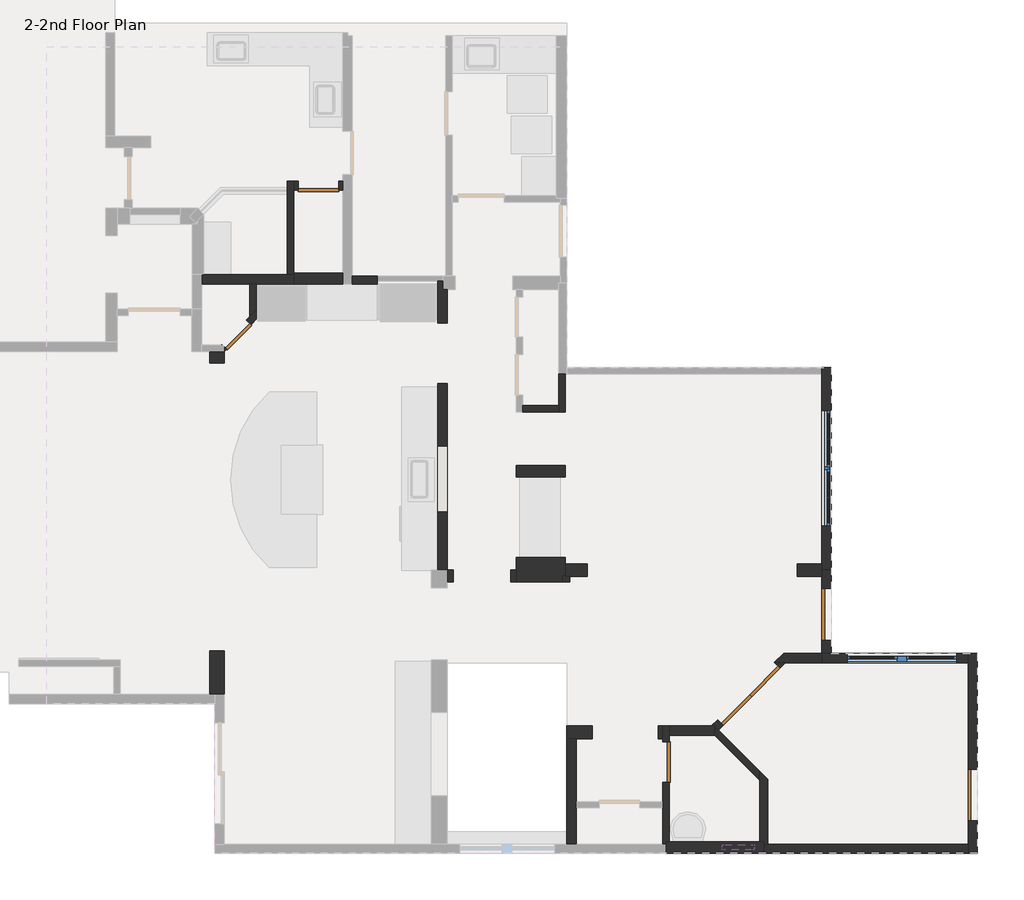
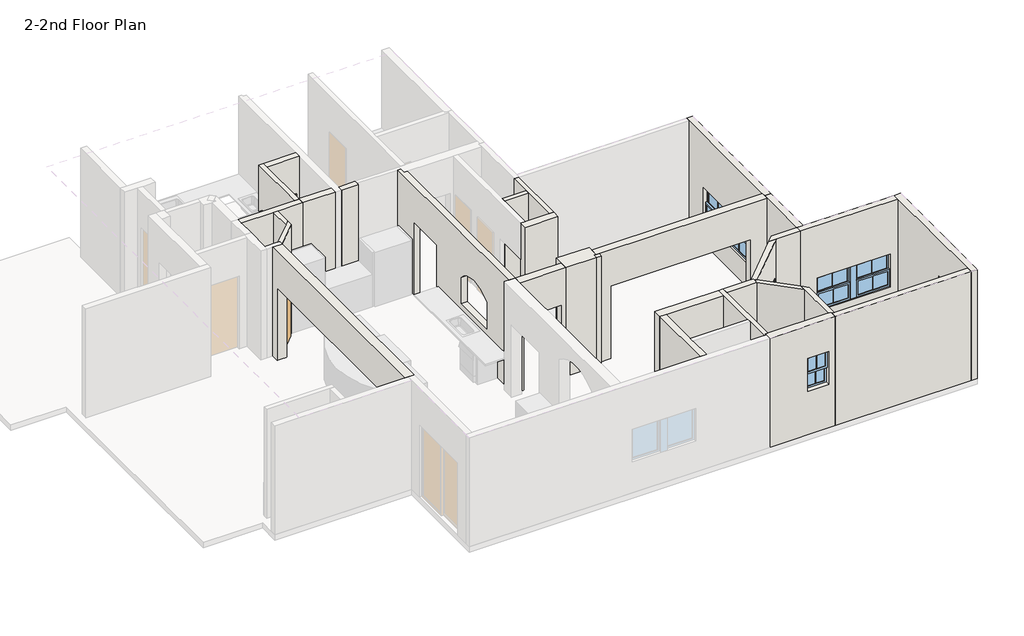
# One storey, part 2 of 3: 30 walls, 6 doors, 3 windows.
"""IFC4 building model written with IfcOpenShell, lengths in millimetres."""

from ifc_helpers import new_model, si_unit, frame, origin, place, context, project, spatial, polyline, circle_curve, outline, extrude, faceted_brep, transform, mapped, element, save
from ifc_brep_helpers import plane_surface, revolved_surface, advanced_brep
from components import door_af60eaab, door_64bc458f, door_f3367864, door_0635474c, door_757b25a2, window_edb563cb, window_b2b55fbc, window_ae0c0cb5

model = new_model("IFC4")

# Units and contexts
model_context = context("Model", 3, world=origin())
ifc_project = project(units=[si_unit("LENGTHUNIT", "METRE", prefix="MILLI")], contexts=[model_context])

# Site, building, storey
site = spatial("IfcSite", under=ifc_project)
building = spatial("IfcBuilding", under=site)
storey = spatial("IfcBuildingStorey", under=building, Name="2-2nd Floor Plan", Elevation=3348.0)

# Doors
placement = place(None, origin())
door_shape = door_af60eaab(model_context)
element("IfcDoor", 1, ObjectType="Door_1 : 2'-0\" X 6'-8\"", at=placement, inside=storey, context=model_context, shape_type="MappedRepresentation", body=[
    mapped(door_shape, transform((385.1436821, 9152.7659872, 3348.0), x_axis=(0.7071067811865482, 0.7071067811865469, 0.0), y_axis=(-0.7071067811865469, 0.7071067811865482, 0.0), z_axis=(0.0, 0.0, 1.0))),
])
door_2_shape = door_64bc458f(model_context)
element("IfcDoor", 2, ObjectType="Door_1 : 2'-4\" X 6'-8\"", at=placement, inside=storey, context=model_context, shape_type="MappedRepresentation", body=[
    mapped(door_2_shape, transform((7956.55, 1612.9, 3348.0), x_axis=(0.0, 1.0, 0.0), y_axis=(-1.0, 0.0, 0.0), z_axis=(0.0, 0.0, 1.0))),
])
door_3_shape = door_f3367864(model_context)
element("IfcDoor", 3, ObjectType="Door_1 : 2'-4\" X 6'-8\"", at=placement, inside=storey, context=model_context, shape_type="MappedRepresentation", body=[
    mapped(door_3_shape, transform((1828.8, 11779.1447939, 3348.0), x_axis=(1.0, 0.0, 0.0), y_axis=(0.0, 1.0, 0.0), z_axis=(0.0, 0.0, 1.0))),
])
door_4_shape = door_0635474c(model_context)
element("IfcDoor", 4, ObjectType="Door_1 : 3'-0\" X 6'-8\"", at=placement, inside=storey, context=model_context, shape_type="MappedRepresentation", body=[
    mapped(door_4_shape, transform((10788.65, 4216.4, 3348.0), x_axis=(0.0, -1.0, 0.0), y_axis=(1.0, 0.0, 0.0), z_axis=(0.0, 0.0, 1.0))),
])
element("IfcDoor", 5, ObjectType="Door_1 : 3'-0\" X 6'-8\"", at=placement, inside=storey, context=model_context, shape_type="MappedRepresentation", body=[
    mapped(door_4_shape, transform((13366.75, 1028.7, 3348.0), x_axis=(0.0, -1.0, 0.0), y_axis=(1.0, 0.0, 0.0), z_axis=(0.0, 0.0, 1.0))),
])
door_5_shape = door_757b25a2(model_context)
element("IfcDoor", 6, ObjectType="Door_2 : 4'-8\" X 6'-8\"", at=placement, inside=storey, context=model_context, shape_type="MappedRepresentation", body=[
    mapped(door_5_shape, transform((9417.8683118, 2814.0101841, 3348.0), x_axis=(-0.7050813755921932, -0.7091264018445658, 0.0), y_axis=(0.7091264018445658, -0.7050813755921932, 0.0), z_axis=(0.0, 0.0, 1.0))),
])

# Walls
element("IfcWall", 7, ObjectType="Wall_10\"", at=placement, inside=storey, context=model_context, shape_type="Brep", body=[
    faceted_brep([(165.1, 8851.9, 6396.0), (165.1, 2806.7, 6396.0), (165.1, 2806.7, 3348.0), (165.1, 3568.7, 3348.0), (165.1, 3568.7, 5380.0), (165.1, 8648.7, 5380.0), (165.1, 8648.7, 3348.0), (165.1, 8851.9, 3348.0), (-88.9, 2806.7, 6396.0), (-88.9, 8851.9, 6396.0), (-88.9, 8851.9, 3348.0), (-88.9, 8648.7, 3348.0), (-88.9, 8648.7, 5380.0), (-88.9, 3568.7, 5380.0), (-88.9, 3568.7, 3348.0), (-88.9, 2806.7, 3348.0), (0.0, 2806.7, 3348.0), (0.0, 2806.7, 6396.0)], [[[0, 1, 2, 3, 4, 5, 6, 7]], [[8, 9, 10, 11, 12, 13, 14, 15]], [[2, 16, 15, 14, 3]], [[10, 7, 6, 11]], [[1, 0, 9, 8, 17]], [[2, 1, 17, 8, 15, 16]], [[0, 7, 10, 9]], [[5, 12, 11, 6]], [[13, 4, 3, 14]], [[4, 13, 12, 5]]]),
])
element("IfcWall", 8, ObjectType="Wall_17\"", at=placement, inside=storey, context=model_context, shape_type="Brep", body=[
    faceted_brep([(6184.8999991, 5219.5947939, 3348.0), (5321.3, 5219.5947939, 3348.0), (5321.3, 5219.5947939, 6396.0), (6184.8999991, 5219.5947939, 6396.0), (5321.3, 4787.7947939, 6396.0), (5321.3, 4787.7947939, 3348.0), (6127.7499991, 4787.7947939, 3348.0), (6127.7499991, 4787.7947939, 6396.0), (6184.8999991, 5105.4001027, 3348.0), (6184.8999991, 4902.0947939, 3348.0), (6127.7499991, 4902.0947939, 3348.0), (5321.3, 5003.6947939, 3348.0), (5321.3, 5003.6947939, 6396.0), (6127.7499991, 4902.0947939, 6396.0), (6184.8999991, 4902.0947939, 6396.0), (6184.8999991, 5105.4001027, 6396.0)], [[[0, 1, 2, 3]], [[4, 5, 6, 7]], [[1, 0, 8, 9, 10, 6, 5, 11]], [[2, 1, 11, 5, 4, 12]], [[3, 2, 12, 4, 7, 13, 14, 15]], [[0, 3, 15, 14, 9, 8]], [[13, 10, 9, 14]], [[10, 13, 7, 6]]]),
])
element("IfcWall", 9, ObjectType="Wall_4.5\"", at=placement, inside=storey, context=model_context, shape_type="Brep", body=[
    faceted_brep([(736.4972395, 9423.2972395, 6396.0), (165.1, 8851.9, 6396.0), (165.1, 8851.9, 3348.0), (210.0286878, 8896.8286878, 3348.0), (210.0286878, 8896.8286878, 5380.0), (641.0809816, 9327.8809816, 5380.0), (641.0809816, 9327.8809816, 3348.0), (736.4972395, 9423.2972395, 3348.0), (117.7553898, 8966.2, 6396.0), (622.1972395, 9470.6418497, 6396.0), (736.4972395, 9584.9418497, 6396.0), (736.4972395, 9584.9418497, 3348.0), (622.1972395, 9470.6418497, 3348.0), (560.2586765, 9408.7032867, 3348.0), (560.2586765, 9408.7032867, 5380.0), (129.2063827, 8977.6509929, 5380.0), (129.2063827, 8977.6509929, 3348.0), (117.7553898, 8966.2, 3348.0), (140.6573755, 8966.2, 3348.0), (165.1, 8941.7573755, 3348.0), (165.1, 8966.2, 6396.0), (165.1, 8966.2, 5380.0), (165.1, 8941.7573755, 5380.0), (140.6573755, 8966.2, 5380.0)], [[[0, 1, 2, 3, 4, 5, 6, 7]], [[8, 9, 10, 11, 12, 13, 14, 15, 16, 17]], [[11, 7, 6, 13, 12]], [[17, 16, 18]], [[3, 2, 19]], [[1, 0, 10, 9, 8, 20]], [[2, 1, 20, 21, 22, 19]], [[8, 17, 18, 23, 21, 20]], [[0, 7, 11, 10]], [[5, 14, 13, 6]], [[14, 5, 4, 22, 21, 23, 15]], [[22, 4, 3, 19]], [[15, 23, 18, 16]]]),
])
element("IfcWall", 10, ObjectType="Wall_4.5\"", at=placement, inside=storey, context=model_context, shape_type="SweptSolid", body=[
    extrude(outline(polyline([(736.4972395, 10045.7), (736.4972395, 9584.9418497), (622.1972395, 9470.6418497), (622.1972395, 10045.7), (736.4972395, 10045.7)])), frame((0.0, 0.0, 3348.0), z_axis=(0.0, 0.0, 1.0), x_axis=(1.0, 0.0, 0.0)), (0.0, 0.0, 1.0), 3048.0),
])
element("IfcWall", 11, ObjectType="Wall_4.5\"", at=placement, inside=storey, context=model_context, shape_type="Brep", body=[
    faceted_brep([(1397.0, 10210.8, 3348.0), (1397.0, 10236.2, 3348.0), (1397.0, 11696.5947939, 3348.0), (1397.0, 11861.6947939, 3348.0), (1397.0, 11861.6947939, 6396.0), (1397.0, 11696.5947939, 6396.0), (1397.0, 10236.2, 6396.0), (1397.0, 10210.8, 6396.0), (1282.7, 10210.8, 3348.0), (1282.7, 10210.8, 6396.0), (1282.7, 11861.6947939, 6396.0), (1282.7, 11861.6947939, 3348.0)], [[[0, 1, 2, 3, 4, 5, 6, 7]], [[8, 9, 10, 11]], [[3, 2, 1, 0, 8, 11]], [[7, 6, 5, 4, 10, 9]], [[0, 7, 9, 8]], [[4, 3, 11, 10]]]),
])
element("IfcWall", 12, ObjectType="Wall_4.5\"", at=placement, inside=storey, context=model_context, shape_type="Brep", body=[
    faceted_brep([(5435.6, 7784.9947939, 3348.0), (6070.5999991, 7784.9947939, 3348.0), (6070.5999991, 7784.9947939, 5380.0), (6070.5999991, 7784.9947939, 6396.0), (5435.6, 7784.9947939, 6396.0), (5435.6, 7784.9947939, 5380.0), (5435.6, 7899.2947939, 3348.0), (5435.6, 7899.2947939, 6396.0), (6070.5999991, 7899.2947939, 6396.0), (6070.5999991, 7899.2947939, 3348.0)], [[[0, 1, 2, 3, 4, 5]], [[6, 7, 8, 9]], [[1, 0, 6, 9]], [[4, 3, 8, 7]], [[0, 5, 4, 7, 6]], [[3, 2, 1, 9, 8]]]),
])
element("IfcWall", 13, ObjectType="Wall_4.5\"", at=placement, inside=storey, context=model_context, shape_type="SweptSolid", body=[
    extrude(outline(polyline([(6261.0999991, 4787.7947939), (6127.7499991, 4787.7947939), (6127.7499991, 4902.0947939), (6184.8999991, 4902.0947939), (6184.8999991, 4889.5001027), (6261.0999991, 4889.5001027), (6261.0999991, 4787.7947939)])), frame((0.0, 0.0, 3348.0), z_axis=(0.0, 0.0, 1.0), x_axis=(1.0, 0.0, 0.0)), (0.0, 0.0, 1.0), 3048.0),
])
element("IfcWall", 14, ObjectType="Wall_4.5\"", at=placement, inside=storey, context=model_context, shape_type="SweptSolid", body=[
    extrude(outline(polyline([(8855.9388475, 2205.7611525), (9613.9, 1447.8), (9613.9, 1286.1553898), (8817.2553898, 2082.8), (8817.2553898, 2167.0776949), (8855.9388475, 2205.7611525)])), frame((0.0, 0.0, 3348.0), z_axis=(0.0, 0.0, 1.0), x_axis=(1.0, 0.0, 0.0)), (0.0, 0.0, 1.0), 3048.0),
])
element("IfcWall", 15, ObjectType="Wall_4.5\"", at=placement, inside=storey, context=model_context, shape_type="Brep", body=[
    faceted_brep([(8013.7, 1968.5, 5380.0), (8013.7, 1968.5, 3348.0), (8013.7, 2082.8, 3348.0), (8013.7, 2247.9, 3348.0), (8013.7, 2247.9, 6396.0), (8013.7, 2082.8, 6396.0), (8013.7, 203.2, 6396.0), (8013.7, 203.2, 3348.0), (8013.7, 1257.3, 3348.0), (8013.7, 1257.3, 5380.0), (7899.4, 2247.9, 3348.0), (7899.4, 2019.3, 3348.0), (7899.4, 1968.5, 3348.0), (7899.4, 1968.5, 5380.0), (7899.4, 1257.3, 5380.0), (7899.4, 1257.3, 3348.0), (7899.4, 914.4, 3348.0), (7899.4, 800.1, 3348.0), (7899.4, 165.1, 3348.0), (7899.4, 165.1, 6396.0), (7899.4, 800.1, 6396.0), (7899.4, 914.4, 6396.0), (7899.4, 2019.3, 6396.0), (7899.4, 2247.9, 6396.0), (7956.55, 203.2, 3348.0), (7956.55, 165.1, 3348.0), (7956.55, 165.1, 6396.0), (7956.55, 203.2, 6396.0)], [[[0, 1, 2, 3, 4, 5, 6, 7, 8, 9]], [[10, 11, 12, 13, 14, 15, 16, 17, 18, 19, 20, 21, 22, 23]], [[8, 7, 24, 25, 18, 17, 16, 15]], [[3, 2, 1, 12, 11, 10]], [[6, 5, 4, 23, 22, 21, 20, 19, 26, 27]], [[7, 6, 27, 24]], [[27, 26, 25, 24]], [[26, 19, 18, 25]], [[4, 3, 10, 23]], [[13, 12, 1, 0]], [[14, 13, 0, 9]], [[15, 14, 9, 8]]]),
])
element("IfcWall", 16, ObjectType="Wall_4.5\"", at=placement, inside=storey, context=model_context, shape_type="Brep", body=[
    faceted_brep([(6184.8999991, 8458.2, 6396.0), (6184.8999991, 6845.1947939, 6396.0), (6184.8999991, 6845.1947939, 5380.0), (6184.8999991, 7784.9947939, 5380.0), (6184.8999991, 7784.9947939, 3348.0), (6184.8999991, 8458.2, 3348.0), (6070.5999991, 6845.1947939, 6396.0), (6070.5999991, 7784.9947939, 6396.0), (6070.5999991, 7899.2947939, 6396.0), (6070.5999991, 8458.2, 6396.0), (6070.5999991, 8458.2, 3348.0), (6070.5999991, 7899.2947939, 3348.0), (6070.5999991, 7784.9947939, 3348.0), (6070.5999991, 7784.9947939, 5380.0), (6070.5999991, 6845.1947939, 5380.0)], [[[0, 1, 2, 3, 4, 5]], [[6, 7, 8, 9, 10, 11, 12, 13, 14]], [[10, 5, 4, 12, 11]], [[1, 0, 9, 8, 7, 6]], [[0, 5, 10, 9]], [[1, 6, 14, 2]], [[3, 13, 12, 4]], [[13, 3, 2, 14]]]),
])
element("IfcWall", 17, ObjectType="Wall_5.5\"", at=placement, inside=storey, context=model_context, shape_type="Brep", body=[
    faceted_brep([(2425.7, 10045.7, 3348.0), (2870.2, 10045.7, 3348.0), (2870.2, 10045.7, 6396.0), (2425.7, 10045.7, 6396.0), (2425.7, 10185.4, 3348.0), (2425.7, 10185.4, 6396.0), (2870.2, 10185.4, 6396.0), (2870.2, 10185.4, 3348.0), (2870.2, 10096.5, 3348.0), (2870.2, 10096.5, 6396.0)], [[[0, 1, 2, 3]], [[4, 5, 6, 7]], [[1, 0, 4, 7, 8]], [[2, 1, 8, 7, 6, 9]], [[3, 2, 9, 6, 5]], [[0, 3, 5, 4]]]),
])
element("IfcWall", 18, ObjectType="Wall_5.5\"", at=placement, inside=storey, context=model_context, shape_type="Brep", body=[
    faceted_brep([(9861.3970403, 3359.15, 6396.0), (9861.3970403, 3359.15, 5380.0), (8866.8819583, 2358.9294212, 5380.0), (8866.8819583, 2358.9294212, 3348.0), (8756.4858755, 2247.9, 3348.0), (8756.4858755, 2247.9, 6396.0), (10058.4, 3359.15, 3348.0), (10058.4, 3359.15, 6396.0), (8883.844192, 2177.855808, 6396.0), (8883.844192, 2177.855808, 3348.0), (8965.9469167, 2260.429553, 3348.0), (8965.9469167, 2260.429553, 5380.0), (9968.8546653, 3269.090947, 5380.0), (9968.8546653, 3269.090947, 3348.0), (9878.2789467, 3359.15, 3348.0), (8855.9388475, 2205.7611525, 3348.0), (8817.2553898, 2167.0776949, 3348.0), (8817.2553898, 2247.9, 3348.0), (8817.2553898, 2247.9, 6396.0), (8817.2553898, 2167.0776949, 6396.0), (8855.9388475, 2205.7611525, 6396.0), (9878.2789467, 3359.15, 5380.0)], [[[0, 1, 2, 3, 4, 5]], [[6, 7, 8, 9, 10, 11, 12, 13]], [[6, 13, 14]], [[4, 3, 10, 9, 15, 16, 17]], [[7, 0, 5, 18, 19, 20, 8]], [[0, 7, 6, 14, 21, 1]], [[2, 11, 10, 3]], [[11, 2, 1, 21, 12]], [[13, 12, 21, 14]], [[17, 18, 5, 4]], [[18, 17, 16, 19]], [[20, 15, 9, 8]], [[15, 20, 19, 16]]]),
])
element("IfcWall", 19, ObjectType="Wall_5.5\"", at=placement, inside=storey, context=model_context, shape_type="Brep", body=[
    faceted_brep([(9753.6, 165.1, 3348.0), (9753.6, 1308.1, 3348.0), (9753.6, 1308.1, 6396.0), (9753.6, 165.1, 6396.0), (9613.9, 203.2, 3348.0), (9613.9, 203.2, 6396.0), (9613.9, 1286.1553898, 6396.0), (9613.9, 1447.8, 6396.0), (9613.9, 1447.8, 3348.0), (9613.9, 1286.1553898, 3348.0), (9683.75, 165.1, 3348.0), (9683.75, 203.2, 3348.0), (9683.75, 203.2, 6396.0), (9683.75, 165.1, 6396.0)], [[[0, 1, 2, 3]], [[4, 5, 6, 7, 8, 9]], [[1, 0, 10, 11, 4, 9, 8]], [[3, 2, 7, 6, 5, 12, 13]], [[0, 3, 13, 10]], [[13, 12, 11, 10]], [[12, 5, 4, 11]], [[2, 1, 8, 7]]]),
])
element("IfcWall", 20, ObjectType="Wall_6.5\"", at=placement, inside=storey, context=model_context, shape_type="Brep", body=[
    faceted_brep([(13284.2, 571.5, 5380.0), (13284.2, 571.5, 3348.0), (13284.2, 165.1, 3348.0), (13284.2, 0.0, 3348.0), (13284.2, 0.0, 6396.0), (13284.2, 165.1, 6396.0), (13284.2, 3359.15, 6396.0), (13284.2, 3524.25, 6396.0), (13284.2, 3524.25, 3348.0), (13284.2, 3359.15, 3348.0), (13284.2, 1485.9, 3348.0), (13284.2, 1485.9, 5380.0), (13449.3, 0.0, 3348.0), (13449.3, 571.5, 3348.0), (13449.3, 571.5, 5380.0), (13449.3, 1485.9, 5380.0), (13449.3, 1485.9, 3348.0), (13449.3, 3524.25, 3348.0), (13449.3, 3524.25, 6396.0), (13449.3, 0.0, 6396.0)], [[[0, 1, 2, 3, 4, 5, 6, 7, 8, 9, 10, 11]], [[12, 13, 14, 15, 16, 17, 18, 19]], [[10, 9, 8, 17, 16]], [[3, 2, 1, 13, 12]], [[7, 6, 5, 4, 19, 18]], [[4, 3, 12, 19]], [[8, 7, 18, 17]], [[14, 13, 1, 0]], [[15, 14, 0, 11]], [[16, 15, 11, 10]]]),
])
element("IfcWall", 21, ObjectType="Wall_6.5\"", at=placement, inside=storey, context=model_context, shape_type="Brep", body=[
    faceted_brep([(13284.2, 165.1, 3348.0), (9753.6, 165.1, 3348.0), (9683.75, 165.1, 3348.0), (9683.75, 165.1, 6396.0), (9753.6, 165.1, 6396.0), (13284.2, 165.1, 6396.0), (13284.2, 0.0, 3348.0), (13284.2, 0.0, 6396.0), (9683.75, 0.0, 6396.0), (9683.75, 0.0, 3348.0)], [[[0, 1, 2, 3, 4, 5]], [[6, 7, 8, 9]], [[2, 1, 0, 6, 9]], [[3, 2, 9, 8]], [[5, 4, 3, 8, 7]], [[0, 5, 7, 6]]]),
])
element("IfcWall", 22, ObjectType="Wall_6.5\"", at=placement, inside=storey, context=model_context, shape_type="Brep", body=[
    faceted_brep([(13284.2, 3524.25, 3348.0), (10871.2, 3524.25, 3348.0), (10706.1, 3524.25, 3348.0), (10706.1, 3524.25, 6396.0), (10871.2, 3524.25, 6396.0), (13284.2, 3524.25, 6396.0), (11150.6, 3524.25, 4922.8), (11150.6, 3524.25, 4008.4), (13081.0, 3524.25, 4008.4), (13081.0, 3524.25, 4922.8), (13284.2, 3359.15, 3348.0), (13284.2, 3359.15, 6396.0), (10706.1, 3359.15, 6396.0), (10706.1, 3359.15, 3348.0), (11150.6, 3359.15, 4922.8), (13081.0, 3359.15, 4922.8), (13081.0, 3359.15, 4008.4), (11150.6, 3359.15, 4008.4)], [[[0, 1, 2, 3, 4, 5], [6, 7, 8, 9]], [[10, 11, 12, 13], [14, 15, 16, 17]], [[2, 1, 0, 10, 13]], [[5, 4, 3, 12, 11]], [[0, 5, 11, 10]], [[3, 2, 13, 12]], [[7, 6, 14, 17]], [[8, 7, 17, 16]], [[9, 8, 16, 15]], [[6, 9, 15, 14]]]),
])
element("IfcWall", 23, ObjectType="Wall_6.5\"", at=placement, inside=storey, context=model_context, shape_type="Brep", body=[
    faceted_brep([(10871.2, 4997.4501027, 3348.0), (10871.2, 4997.4501027, 6396.0), (10871.2, 3524.25, 6396.0), (10871.2, 3524.25, 3348.0), (10871.2, 3759.2, 3348.0), (10871.2, 3759.2, 5380.0), (10871.2, 4673.6, 5380.0), (10871.2, 4673.6, 3348.0), (10706.1, 4997.4501027, 6396.0), (10706.1, 4997.4501027, 3348.0), (10706.1, 4889.5001027, 3348.0), (10706.1, 4673.6, 3348.0), (10706.1, 4673.6, 5380.0), (10706.1, 3759.2, 5380.0), (10706.1, 3759.2, 3348.0), (10706.1, 3530.6, 3348.0), (10706.1, 3524.25, 3348.0), (10706.1, 3524.25, 6396.0), (10706.1, 3530.6, 6396.0), (10706.1, 4889.5001027, 6396.0)], [[[0, 1, 2, 3, 4, 5, 6, 7]], [[8, 9, 10, 11, 12, 13, 14, 15, 16, 17, 18, 19]], [[3, 16, 15, 14, 4]], [[9, 0, 7, 11, 10]], [[1, 0, 9, 8]], [[2, 1, 8, 19, 18, 17]], [[3, 2, 17, 16]], [[13, 5, 4, 14]], [[5, 13, 12, 6]], [[6, 12, 11, 7]]]),
])
element("IfcWall", 24, ObjectType="Wall_6.5\"", at=placement, inside=storey, context=model_context, shape_type="Brep", body=[
    faceted_brep([(-228.6, 10045.7, 3348.0), (622.1972395, 10045.7, 3348.0), (736.4972395, 10045.7, 3348.0), (1397.0, 10045.7, 3348.0), (1397.0, 10045.7, 6396.0), (736.4972395, 10045.7, 6396.0), (622.1972395, 10045.7, 6396.0), (-228.6, 10045.7, 6396.0), (-228.6, 10210.8, 3348.0), (-228.6, 10210.8, 6396.0), (-190.5, 10210.8, 6396.0), (1282.7, 10210.8, 6396.0), (1397.0, 10210.8, 6396.0), (1397.0, 10210.8, 3348.0), (1282.7, 10210.8, 3348.0), (-190.5, 10210.8, 3348.0)], [[[0, 1, 2, 3, 4, 5, 6, 7]], [[8, 9, 10, 11, 12, 13, 14, 15]], [[3, 2, 1, 0, 8, 15, 14, 13]], [[7, 6, 5, 4, 12, 11, 10, 9]], [[0, 7, 9, 8]], [[4, 3, 13, 12]]]),
])
element("IfcWall", 25, ObjectType="Wall_6.5\"", at=placement, inside=storey, context=model_context, shape_type="SweptSolid", body=[
    extrude(outline(polyline([(5380.0, 2184.4), (3348.0, 2184.4), (3348.0, 2260.6), (6396.0, 2260.6), (6396.0, 1397.0), (3348.0, 1397.0), (3348.0, 1473.2), (5380.0, 1473.2), (5380.0, 2184.4)])), frame((0.0, 11696.5947939, 0.0), z_axis=(0.0, 1.0, 0.0), x_axis=(0.0, 0.0, 1.0)), (0.0, 0.0, 1.0), 165.1),
])
element("IfcWall", 26, ObjectType="Wall_6.5\"", at=placement, inside=storey, context=model_context, shape_type="AdvancedBrep", body=[
    advanced_brep(
    [(3937.0, 10096.5, 6396.0), (3937.0, 10096.5, 3348.0), (3937.0, 9359.7947939, 3348.0), (3937.0, 9359.7947939, 5380.0), (3937.0, 8292.9947939, 5380.0), (3937.0, 8292.9947939, 3348.0), (3937.0, 5003.8, 3348.0), (3937.0, 5003.8, 6396.0), (3937.0, 6019.6947939, 5151.4), (3937.0, 6019.6947939, 4414.8), (3937.0, 7188.0947939, 4414.8), (3937.0, 7188.0947939, 5151.4), (4102.1, 9943.9947939, 3348.0), (4102.1, 9943.9947939, 6396.0), (4102.1, 5003.8, 6396.0), (4102.1, 5003.8, 3348.0), (4102.1, 8292.9947939, 3348.0), (4102.1, 8292.9947939, 5380.0), (4102.1, 9359.7947939, 5380.0), (4102.1, 9359.7947939, 3348.0), (4102.1, 6019.6947939, 4414.8), (4102.1, 6019.6947939, 5151.4), (4102.1, 7188.0947939, 5151.4), (4102.1, 7188.0947939, 4414.8), (4019.55, 10096.5, 3348.0), (4019.55, 9943.9947939, 3348.0), (4019.55, 9943.9947939, 6396.0), (4019.55, 10096.5, 6396.0)],
    [
        (0, 1),
        (1, 2),
        (2, 3),
        (3, 4),
        (4, 5),
        (5, 6),
        (6, 7),
        (7, 0),
        (8, 9),
        (9, 10),
        (10, 11),
        (11, 8, circle_curve(frame((3937.0, 6603.8947939, 4621.6661651), z_axis=(1.0, 0.0, 0.0), x_axis=(0.0, -1.0, 0.0)), 788.611169)),
        (12, 13),
        (13, 14),
        (14, 15),
        (15, 16),
        (16, 17),
        (17, 18),
        (18, 19),
        (19, 12),
        (20, 21),
        (21, 22, circle_curve(frame((4102.1, 6603.8947939, 4621.6661651), z_axis=(-1.0, 0.0, 0.0), x_axis=(0.0, -1.0, 0.0)), 788.611169)),
        (22, 23),
        (23, 20),
        (1, 24),
        (24, 25),
        (25, 12),
        (19, 2),
        (5, 16),
        (15, 6),
        (13, 26),
        (26, 27),
        (27, 0),
        (7, 14),
        (27, 24),
        (26, 25),
        (18, 3),
        (4, 17),
        (8, 21),
        (20, 9),
        (11, 22),
        (10, 23),
    ],
    [
        plane_surface(frame((3937.0, 9943.9947939, 3348.0), z_axis=(-1.0, 0.0, 0.0), x_axis=(0.0, -1.0, 0.0))),
        plane_surface(frame((4102.1, 9943.9947939, 3348.0), z_axis=(1.0, 0.0, 0.0), x_axis=(0.0, 1.0, 0.0))),
        plane_surface(frame((3937.0, 10140.95, 3348.0), z_axis=(0.0, 0.0, -1.0), x_axis=(1.0, 0.0, 0.0))),
        plane_surface(frame((3937.0, 4895.7447939, 6396.0), z_axis=(0.0, 0.0, 1.0), x_axis=(1.0, 0.0, 0.0))),
        plane_surface(frame((1396.9473969, 10096.5, 3195.6), z_axis=(0.0, 1.0, 0.0), x_axis=(-1.0, 0.0, 0.0))),
        plane_surface(frame((4019.55, 10020.2473969, 3195.6), z_axis=(1.0, 0.0, 0.0), x_axis=(0.0, 1.0, 0.0))),
        plane_surface(frame((6642.1526031, 9943.9947939, 3195.6), z_axis=(0.0, 1.0, 0.0), x_axis=(-1.0, 0.0, 0.0))),
        plane_surface(frame((3937.0, 9359.7947939, 3348.0), z_axis=(0.0, -1.0, 0.0), x_axis=(1.0, 0.0, 0.0))),
        plane_surface(frame((3937.0, 8292.9947939, 5380.0), z_axis=(0.0, 1.0, 0.0), x_axis=(1.0, 0.0, 0.0))),
        plane_surface(frame((3937.0, 6019.6947939, 4414.8), z_axis=(0.0, 1.0, 0.0), x_axis=(1.0, 0.0, 0.0))),
        revolved_surface(polyline([(3937.0, 5815.2836249, 4621.6661651), (4102.1, 5815.2836249, 4621.6661651)]), (4102.1, 6603.8947939, 4621.6661651), (-1.0, 0.0, 0.0)),
        plane_surface(frame((3937.0, 7188.0947939, 5151.4), z_axis=(0.0, -1.0, 0.0), x_axis=(1.0, 0.0, 0.0))),
        plane_surface(frame((3937.0, 7188.0947939, 4414.8), z_axis=(0.0, 0.0, 1.0), x_axis=(1.0, 0.0, 0.0))),
        plane_surface(frame((3822.7, 5003.8, 6396.0), z_axis=(0.0, -1.0, 0.0), x_axis=(1.0, 0.0, 0.0))),
        plane_surface(frame((3937.0, 9359.7947939, 5380.0), z_axis=(0.0, 0.0, -1.0), x_axis=(1.0, 0.0, 0.0))),
    ],
    [
        (0, [[1, 2, 3, 4, 5, 6, 7, 8], [9, 10, 11, 12]]),
        (1, [[13, 14, 15, 16, 17, 18, 19, 20], [21, 22, 23, 24]]),
        (2, [[25, 26, 27, -20, 28, -2]]),
        (2, [[29, -16, 30, -6]]),
        (3, [[31, 32, 33, -8, 34, -14]]),
        (4, [[-1, -33, 35, -25]]),
        (5, [[-32, 36, -26, -35]]),
        (6, [[-13, -27, -36, -31]]),
        (7, [[-3, -28, -19, 37]]),
        (8, [[-5, 38, -17, -29]]),
        (9, [[39, -21, 40, -9]]),
        (10, [[-39, -12, 41, -22]]),
        (11, [[-41, -11, 42, -23]]),
        (12, [[-40, -24, -42, -10]]),
        (13, [[-7, -30, -15, -34]]),
        (14, [[-4, -37, -18, -38]]),
    ],
),
])
element("IfcWall", 27, ObjectType="Wall_6.5\"", at=placement, inside=storey, context=model_context, shape_type="Brep", body=[
    faceted_brep([(8013.7, 2082.8, 3348.0), (8817.2553898, 2082.8, 3348.0), (8817.2553898, 2082.8, 6396.0), (8013.7, 2082.8, 6396.0), (8013.7, 2247.9, 3348.0), (8013.7, 2247.9, 6396.0), (8756.4858755, 2247.9, 6396.0), (8817.2553898, 2247.9, 6396.0), (8817.2553898, 2247.9, 3348.0), (8756.4858755, 2247.9, 3348.0), (8817.2553898, 2167.0776949, 3348.0), (8817.2553898, 2167.0776949, 6396.0)], [[[0, 1, 2, 3]], [[4, 5, 6, 7, 8, 9]], [[1, 0, 4, 9, 8, 10]], [[2, 1, 10, 8, 7, 11]], [[3, 2, 11, 7, 6, 5]], [[0, 3, 5, 4]]]),
])
element("IfcWall", 28, ObjectType="Wall_6.5\"", at=placement, inside=storey, context=model_context, shape_type="Brep", body=[
    faceted_brep([(6210.3, 2019.3, 3348.0), (6210.3, 165.1, 3348.0), (6210.3, 165.1, 6396.0), (6210.3, 2019.3, 6396.0), (6375.4, 2019.3, 3348.0), (6375.4, 2019.3, 6396.0), (6375.4, 914.4, 6396.0), (6375.4, 800.1, 6396.0), (6375.4, 165.1, 6396.0), (6375.4, 165.1, 3348.0), (6375.4, 800.1, 3348.0), (6375.4, 914.4, 3348.0)], [[[0, 1, 2, 3]], [[4, 5, 6, 7, 8, 9, 10, 11]], [[1, 0, 4, 11, 10, 9]], [[3, 2, 8, 7, 6, 5]], [[0, 3, 5, 4]], [[2, 1, 9, 8]]]),
])
element("IfcWall", 29, ObjectType="Wall_6.5\"", at=placement, inside=storey, context=model_context, shape_type="Brep", body=[
    faceted_brep([(10871.2, 4997.4501027, 3348.0), (10871.2, 8572.5, 3348.0), (10871.2, 8572.5, 6396.0), (10871.2, 4997.4501027, 6396.0), (10871.2, 7810.5123648, 4922.8), (10871.2, 7810.5123648, 4008.4), (10871.2, 5778.5123648, 4008.4), (10871.2, 5778.5123648, 4922.8), (10706.1, 4997.4501027, 3348.0), (10706.1, 4997.4501027, 6396.0), (10706.1, 5105.4001027, 6396.0), (10706.1, 8458.2, 6396.0), (10706.1, 8572.5, 6396.0), (10706.1, 8572.5, 3348.0), (10706.1, 8458.2, 3348.0), (10706.1, 5105.4001027, 3348.0), (10706.1, 7810.5123648, 4922.8), (10706.1, 5778.5123648, 4922.8), (10706.1, 5778.5123648, 4008.4), (10706.1, 7810.5123648, 4008.4)], [[[0, 1, 2, 3], [4, 5, 6, 7]], [[8, 9, 10, 11, 12, 13, 14, 15], [16, 17, 18, 19]], [[1, 0, 8, 15, 14, 13]], [[3, 2, 12, 11, 10, 9]], [[0, 3, 9, 8]], [[2, 1, 13, 12]], [[5, 4, 16, 19]], [[6, 5, 19, 18]], [[7, 6, 18, 17]], [[4, 7, 17, 16]]]),
])
element("IfcWall", 30, ObjectType="Wall_6.75\"", at=placement, inside=storey, context=model_context, shape_type="Brep", body=[
    faceted_brep([(10706.1, 3530.6, 3348.0), (10031.8690485, 3530.6, 3348.0), (10031.8690485, 3530.6, 6396.0), (10706.1, 3530.6, 6396.0), (10706.1, 3359.15, 6396.0), (10058.4, 3359.15, 6396.0), (9861.3970403, 3359.15, 6396.0), (9861.3970403, 3359.15, 5380.0), (9878.2789467, 3359.15, 5380.0), (9878.2789467, 3359.15, 3348.0), (10058.4, 3359.15, 3348.0), (10706.1, 3359.15, 3348.0), (10706.1, 3524.25, 3348.0), (9869.789707, 3367.5908151, 3348.0), (10706.1, 3524.25, 6396.0), (9869.789707, 3367.5908151, 5380.0)], [[[0, 1, 2, 3]], [[4, 5, 6, 7, 8, 9, 10, 11]], [[1, 0, 12, 11, 10, 9, 13]], [[3, 2, 6, 5, 4, 14]], [[0, 3, 14, 4, 11, 12]], [[2, 1, 13, 15, 7, 6]], [[8, 15, 13, 9]], [[15, 8, 7]]]),
])
element("IfcWall", 31, ObjectType="Wall_7.5\"", at=placement, inside=storey, context=model_context, shape_type="Brep", body=[
    faceted_brep([(1397.0, 10045.7, 3348.0), (2260.6, 10045.7, 3348.0), (2260.6, 10045.7, 6396.0), (1397.0, 10045.7, 6396.0), (1397.0, 10236.2, 3348.0), (1397.0, 10236.2, 6396.0), (2260.6, 10236.2, 6396.0), (2260.6, 10236.2, 3348.0), (1397.0, 10210.8, 3348.0), (1397.0, 10210.8, 6396.0)], [[[0, 1, 2, 3]], [[4, 5, 6, 7]], [[1, 0, 8, 4, 7]], [[3, 2, 6, 5, 9]], [[0, 3, 9, 5, 4, 8]], [[2, 1, 7, 6]]]),
])
element("IfcWall", 32, ObjectType="Wall_8\"", at=placement, inside=storey, context=model_context, shape_type="Brep", body=[
    faceted_brep([(9683.75, 203.2, 3348.0), (9613.9, 203.2, 3348.0), (8013.7, 203.2, 3348.0), (7956.55, 203.2, 3348.0), (7956.55, 203.2, 6396.0), (8013.7, 203.2, 6396.0), (9613.9, 203.2, 6396.0), (9683.75, 203.2, 6396.0), (9512.3, 203.2, 5481.6), (8953.5, 203.2, 5481.6), (8953.5, 203.2, 4567.2), (9512.3, 203.2, 4567.2), (9683.75, 0.0, 3348.0), (9683.75, 0.0, 6396.0), (7956.55, 0.0, 6396.0), (7956.55, 0.0, 3348.0), (9512.3, 0.0, 5481.6), (9512.3, 0.0, 4567.2), (8953.5, 0.0, 4567.2), (8953.5, 0.0, 5481.6), (9683.75, 165.1, 3348.0), (7956.55, 165.1, 3348.0), (7956.55, 165.1, 6396.0), (9683.75, 165.1, 6396.0)], [[[0, 1, 2, 3, 4, 5, 6, 7], [8, 9, 10, 11]], [[12, 13, 14, 15], [16, 17, 18, 19]], [[3, 2, 1, 0, 20, 12, 15, 21]], [[4, 3, 21, 15, 14, 22]], [[7, 6, 5, 4, 22, 14, 13, 23]], [[0, 7, 23, 13, 12, 20]], [[17, 16, 8, 11]], [[18, 17, 11, 10]], [[19, 18, 10, 9]], [[16, 19, 9, 8]]]),
])
element("IfcWall", 33, ObjectType="Wall_8\"", at=placement, inside=storey, context=model_context, shape_type="Brep", body=[
    faceted_brep([(5321.3, 6641.9947939, 3348.0), (6184.8999991, 6641.9947939, 3348.0), (6184.8999991, 6641.9947939, 6396.0), (5321.3, 6641.9947939, 6396.0), (5321.3, 6845.1947939, 3348.0), (5321.3, 6845.1947939, 5380.0), (5321.3, 6845.1947939, 6396.0), (5435.6, 6845.1947939, 6396.0), (6070.5999991, 6845.1947939, 6396.0), (6184.8999991, 6845.1947939, 6396.0), (6184.8999991, 6845.1947939, 5380.0), (6184.8999991, 6845.1947939, 3348.0)], [[[0, 1, 2, 3]], [[4, 5, 6, 7, 8, 9, 10, 11]], [[1, 0, 4, 11]], [[3, 2, 9, 8, 7, 6]], [[0, 3, 6, 5, 4]], [[2, 1, 11, 10, 9]]]),
])
element("IfcWall", 34, ObjectType="Wall_8.5\"", at=placement, inside=storey, context=model_context, shape_type="SweptSolid", body=[
    extrude(outline(polyline([(5380.0, 5219.7), (3348.0, 5219.7), (3348.0, 5321.3), (6396.0, 5321.3), (6396.0, 4102.1), (3348.0, 4102.1), (3348.0, 4203.7), (5380.0, 4203.7), (5380.0, 5219.7)])), frame((0.0, 4787.7947939, 0.0), z_axis=(0.0, 1.0, 0.0), x_axis=(0.0, 0.0, 1.0)), (0.0, 0.0, 1.0), 215.9),
])
element("IfcWall", 35, ObjectType="Wall_8.5\"", at=placement, inside=storey, context=model_context, shape_type="Brep", body=[
    faceted_brep([(10274.4527866, 4889.5001027, 5380.0), (10274.4527866, 4889.5001027, 3348.0), (10706.1, 4889.5001027, 3348.0), (10706.1, 4889.5001027, 6396.0), (6261.0999991, 4889.5001027, 6396.0), (6184.8999991, 4889.5001027, 6396.0), (6184.8999991, 4889.5001027, 3348.0), (6261.0999991, 4889.5001027, 3348.0), (6566.0527866, 4889.5001027, 3348.0), (6566.0527866, 4889.5001027, 5380.0), (10706.1, 5105.4001027, 3348.0), (10274.4527866, 5105.4001027, 3348.0), (10274.4527866, 5105.4001027, 5380.0), (6566.0527866, 5105.4001027, 5380.0), (6566.0527866, 5105.4001027, 3348.0), (6184.8999991, 5105.4001027, 3348.0), (6184.8999991, 5105.4001027, 6396.0), (10706.1, 5105.4001027, 6396.0), (10706.1, 4997.4501027, 3348.0), (6184.8999991, 4902.0947939, 3348.0), (10706.1, 4997.4501027, 6396.0), (6184.8999991, 4902.0947939, 6396.0)], [[[0, 1, 2, 3, 4, 5, 6, 7, 8, 9]], [[10, 11, 12, 13, 14, 15, 16, 17]], [[2, 1, 11, 10, 18]], [[8, 7, 6, 19, 15, 14]], [[5, 4, 3, 20, 17, 16, 21]], [[6, 5, 21, 16, 15, 19]], [[12, 11, 1, 0]], [[13, 12, 0, 9]], [[14, 13, 9, 8]], [[3, 2, 18, 10, 17, 20]]]),
])
element("IfcWall", 36, ObjectType="Wall_9\"", at=placement, inside=storey, context=model_context, shape_type="Brep", body=[
    faceted_brep([(6654.8, 2247.9, 5380.0), (6654.8, 2247.9, 3348.0), (6210.3, 2247.9, 3348.0), (6210.3, 2247.9, 6396.0), (7899.4, 2247.9, 6396.0), (7899.4, 2247.9, 3348.0), (7823.2, 2247.9, 3348.0), (7823.2, 2247.9, 5380.0), (6210.3, 2019.3, 3348.0), (6375.4, 2019.3, 3348.0), (6654.8, 2019.3, 3348.0), (6654.8, 2019.3, 5380.0), (7823.2, 2019.3, 5380.0), (7823.2, 2019.3, 3348.0), (7899.4, 2019.3, 3348.0), (7899.4, 2019.3, 6396.0), (6375.4, 2019.3, 6396.0), (6210.3, 2019.3, 6396.0)], [[[0, 1, 2, 3, 4, 5, 6, 7]], [[8, 9, 10, 11, 12, 13, 14, 15, 16, 17]], [[6, 5, 14, 13]], [[2, 1, 10, 9, 8]], [[4, 3, 17, 16, 15]], [[5, 4, 15, 14]], [[3, 2, 8, 17]], [[11, 10, 1, 0]], [[13, 12, 7, 6]], [[12, 11, 0, 7]]]),
])

# Windows
window_shape = window_edb563cb(model_context)
element("IfcWindow", 37, ObjectType="Window_2 : 6'-4\" x 3'-0\"", at=placement, inside=storey, context=model_context, shape_type="MappedRepresentation", body=[
    mapped(window_shape, transform((12115.8, 3441.7, 3170.2), x_axis=(-1.0, 0.0, 0.0), y_axis=(0.0, -1.0, 0.0), z_axis=(0.0, 0.0, 1.0))),
])
window_2_shape = window_b2b55fbc(model_context)
element("IfcWindow", 38, ObjectType="Window_4 : 1'-10\" x 3'-0\"", at=placement, inside=storey, context=model_context, shape_type="MappedRepresentation", body=[
    mapped(window_2_shape, transform((9232.9, 101.6, 3729.0), x_axis=(1.0, 0.0, 0.0), y_axis=(0.0, 1.0, 0.0), z_axis=(0.0, 0.0, 1.0))),
])
window_3_shape = window_ae0c0cb5(model_context)
element("IfcWindow", 39, ObjectType="Window_9 : 6'-8\" x 3'-0\"", at=placement, inside=storey, context=model_context, shape_type="MappedRepresentation", body=[
    mapped(window_3_shape, transform((10788.65, 6794.5123648, 3170.2), x_axis=(0.0, 1.0, 0.0), y_axis=(-1.0, 0.0, 0.0), z_axis=(0.0, 0.0, 1.0))),
])

save(model, "model.ifc")
